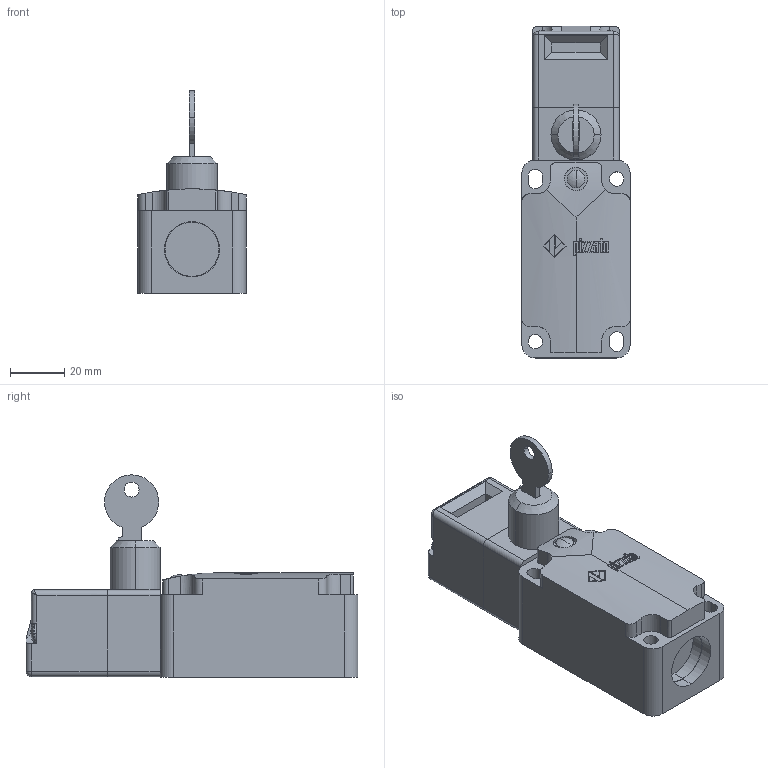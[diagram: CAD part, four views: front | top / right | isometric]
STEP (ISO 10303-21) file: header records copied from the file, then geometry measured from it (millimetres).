
FILE_DESCRIPTION (( 'STEP AP214' ), '1' );
FILE_NAME ('ZF_STEP_FP_x99.step', '2015-05-14T14:39:43', ( 'utente' ), ( 'Microsoft' ), 'SwSTEP 2.0', 'SolidWorks 2014', '' );
FILE_SCHEMA (( 'AUTOMOTIVE_DESIGN' ));
Length unit declared in the file: millimetre
Products named in the file (6): Pizzato_Supporto_T93_T96_TS96; Pizzato_Modulo_T99; Pizzato_Custodia_FP; ZF_STEP_FP_x99; ZF_STEP_VF_T99; Pizzato_Chiave_Serratura_21040
Assembly tree (5 placements, depth 3):
  ZF_STEP_FP_x99
    Pizzato_Custodia_FP
    ZF_STEP_VF_T99
      Pizzato_Modulo_T99
      Pizzato_Supporto_T93_T96_TS96
      Pizzato_Chiave_Serratura_21040
Bounding box: 40 x 122.5 x 74.7 mm (x, y, z)
Volume: 150692.3 mm3; surface area: 32741.2 mm2
Topology: 4 solids, 4 shells, 465 faces, 1228 edges, 805 vertices
Faces by surface type: plane 273, bspline 99, cylinder 79, sphere 8, torus 4, cone 2
Entity records: 19619 total; most frequent: CARTESIAN_POINT 8525, ORIENTED_EDGE 2448, DIRECTION 1904, EDGE_CURVE 1224, VERTEX_POINT 805, VECTOR 762, LINE 762, AXIS2_PLACEMENT_3D 571
